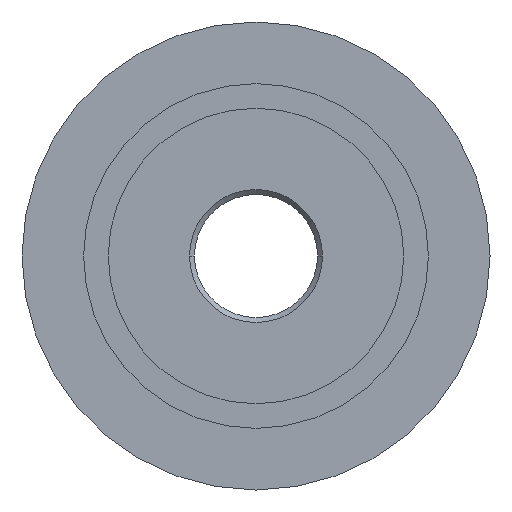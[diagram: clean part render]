
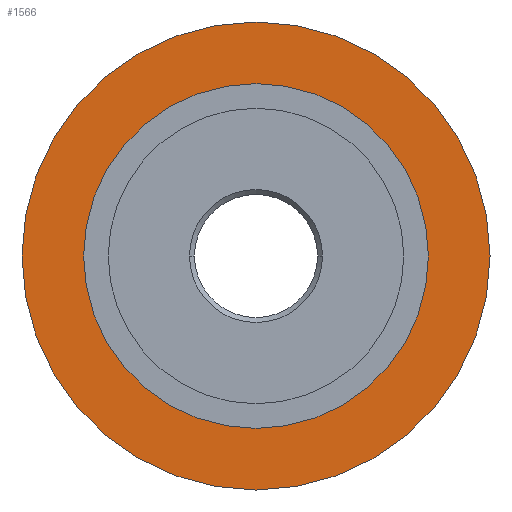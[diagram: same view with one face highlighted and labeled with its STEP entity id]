
A CAD part, left-side view. The second image highlights one B-rep face of the part: STEP entity #1566.
In plain terms, the highlighted planar face has unit normal (-1, 0, 0).
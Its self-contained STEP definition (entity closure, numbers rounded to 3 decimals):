
#216=CARTESIAN_POINT('',(0.,35.0,0.0));
#217=VERTEX_POINT('',#216);
#226=CARTESIAN_POINT('',(0.,-35.0,0.));
#227=VERTEX_POINT('',#226);
#228=CARTESIAN_POINT('',(0.,0.0,0.0));
#229=DIRECTION('',(1.0,0.0,0.0));
#230=DIRECTION('',(0.0,1.0,0.0));
#231=AXIS2_PLACEMENT_3D('',#228,#229,#230);
#232=CIRCLE('',#231,35.0);
#233=EDGE_CURVE('',#227,#217,#232,.T.);
#459=CARTESIAN_POINT('',(0.,47.5,0.0));
#460=VERTEX_POINT('',#459);
#469=CARTESIAN_POINT('',(0.,-47.5,0.));
#470=VERTEX_POINT('',#469);
#471=CARTESIAN_POINT('',(0.,0.0,0.0));
#472=DIRECTION('',(1.0,0.0,0.0));
#473=DIRECTION('',(0.0,1.0,0.0));
#474=AXIS2_PLACEMENT_3D('',#471,#472,#473);
#475=CIRCLE('',#474,47.5);
#476=EDGE_CURVE('',#460,#470,#475,.T.);
#1346=CARTESIAN_POINT('',(0.,0.0,0.0));
#1347=DIRECTION('',(1.0,0.0,0.0));
#1348=DIRECTION('',(0.0,1.0,0.0));
#1349=AXIS2_PLACEMENT_3D('',#1346,#1347,#1348);
#1350=CIRCLE('',#1349,47.5);
#1351=EDGE_CURVE('',#470,#460,#1350,.T.);
#1543=CARTESIAN_POINT('',(0.,0.0,0.0));
#1544=DIRECTION('',(1.0,0.0,0.0));
#1545=DIRECTION('',(0.0,1.0,0.0));
#1546=AXIS2_PLACEMENT_3D('',#1543,#1544,#1545);
#1547=CIRCLE('',#1546,35.0);
#1548=EDGE_CURVE('',#217,#227,#1547,.T.);
#1553=CARTESIAN_POINT('',(0.,41.25,0.0));
#1554=DIRECTION('',(-1.0,0.0,0.0));
#1555=DIRECTION('',(0.0,0.0,1.0));
#1556=AXIS2_PLACEMENT_3D('',#1553,#1554,#1555);
#1557=PLANE('',#1556);
#1558=ORIENTED_EDGE('',*,*,#476,.F.);
#1559=ORIENTED_EDGE('',*,*,#1351,.F.);
#1560=EDGE_LOOP('',(#1558,#1559));
#1561=FACE_OUTER_BOUND('',#1560,.T.);
#1562=ORIENTED_EDGE('',*,*,#1548,.T.);
#1563=ORIENTED_EDGE('',*,*,#233,.T.);
#1564=EDGE_LOOP('',(#1562,#1563));
#1565=FACE_BOUND('',#1564,.T.);
#1566=ADVANCED_FACE('',(#1561,#1565),#1557,.T.);
